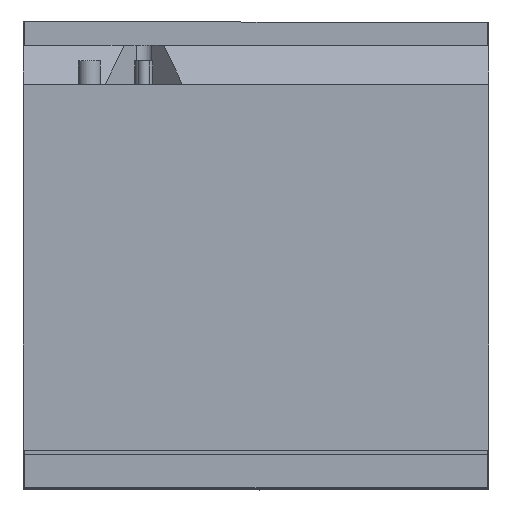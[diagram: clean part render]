
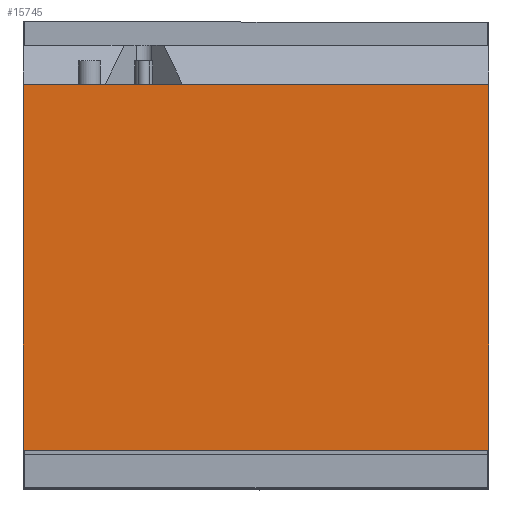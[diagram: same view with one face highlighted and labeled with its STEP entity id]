
A CAD part, front view. The second image highlights one B-rep face of the part: STEP entity #15745.
In plain terms, the highlighted planar face has unit normal (0, -1, 0).
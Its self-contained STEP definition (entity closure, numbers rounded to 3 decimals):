
#108 = LINE ( 'NONE', #13315, #10175 ) ;
#293 = CARTESIAN_POINT ( 'NONE',  ( 299., 0., -520. ) ) ;
#2409 = EDGE_CURVE ( 'NONE', #8796, #16229, #108, .T. ) ;
#2591 = DIRECTION ( 'NONE',  ( 0., 0., -1. ) ) ;
#2759 = ORIENTED_EDGE ( 'NONE', *, *, #8253, .F. ) ;
#2955 = DIRECTION ( 'NONE',  ( -1., 0., 0. ) ) ;
#3399 = EDGE_LOOP ( 'NONE', ( #10815, #6165, #2759, #15968 ) ) ;
#4766 = CARTESIAN_POINT ( 'NONE',  ( 299., 0., -50. ) ) ;
#4968 = VECTOR ( 'NONE', #16588, 1000. ) ;
#5023 = VERTEX_POINT ( 'NONE', #16617 ) ;
#5088 = FACE_OUTER_BOUND ( 'NONE', #3399, .T. ) ;
#5677 = LINE ( 'NONE', #293, #13186 ) ;
#5783 = AXIS2_PLACEMENT_3D ( 'NONE', #9124, #13259, #17216 ) ;
#6165 = ORIENTED_EDGE ( 'NONE', *, *, #8803, .F. ) ;
#6382 = EDGE_CURVE ( 'NONE', #12541, #8796, #15278, .T. ) ;
#6908 = CARTESIAN_POINT ( 'NONE',  ( -299., 0., -50. ) ) ;
#7556 = CARTESIAN_POINT ( 'NONE',  ( 299., 0., -50. ) ) ;
#7751 = DIRECTION ( 'NONE',  ( 0., 0., -1. ) ) ;
#8227 = CARTESIAN_POINT ( 'NONE',  ( -299., 0., -520. ) ) ;
#8253 = EDGE_CURVE ( 'NONE', #12541, #5023, #10373, .T. ) ;
#8796 = VERTEX_POINT ( 'NONE', #6908 ) ;
#8803 = EDGE_CURVE ( 'NONE', #5023, #16229, #5677, .T. ) ;
#9124 = CARTESIAN_POINT ( 'NONE',  ( 299., 0., -50. ) ) ;
#10175 = VECTOR ( 'NONE', #2591, 1000. ) ;
#10373 = LINE ( 'NONE', #4766, #15983 ) ;
#10815 = ORIENTED_EDGE ( 'NONE', *, *, #2409, .T. ) ;
#11064 = CARTESIAN_POINT ( 'NONE',  ( 299., 0., -50. ) ) ;
#12541 = VERTEX_POINT ( 'NONE', #7556 ) ;
#13186 = VECTOR ( 'NONE', #2955, 1000. ) ;
#13259 = DIRECTION ( 'NONE',  ( 0., 1., 0. ) ) ;
#13315 = CARTESIAN_POINT ( 'NONE',  ( -299., 0., -50. ) ) ;
#15278 = LINE ( 'NONE', #11064, #4968 ) ;
#15745 = ADVANCED_FACE ( 'NONE', ( #5088 ), #17301, .F. ) ;
#15968 = ORIENTED_EDGE ( 'NONE', *, *, #6382, .T. ) ;
#15983 = VECTOR ( 'NONE', #7751, 1000. ) ;
#16229 = VERTEX_POINT ( 'NONE', #8227 ) ;
#16588 = DIRECTION ( 'NONE',  ( -1., 0., 0. ) ) ;
#16617 = CARTESIAN_POINT ( 'NONE',  ( 299., 0., -520. ) ) ;
#17216 = DIRECTION ( 'NONE',  ( 0., 0., 1. ) ) ;
#17301 = PLANE ( 'NONE',  #5783 ) ;
